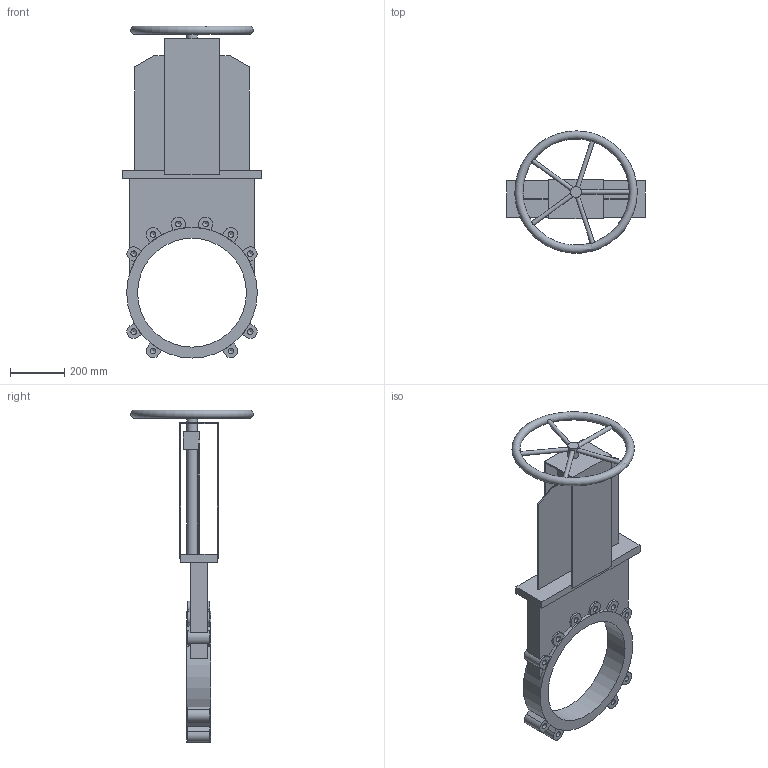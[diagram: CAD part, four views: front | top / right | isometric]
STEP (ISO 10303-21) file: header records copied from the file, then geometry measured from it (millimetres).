
FILE_DESCRIPTION(('STEP AP203'), '1');
FILE_NAME('Çàäâèæêà øèáåðíàÿ ìåæôëàíöåâàÿ K21GV DN400', '', ('UNSPECIFIED'), ('UNSPECIFIED'), 'ASCON STEP Converter 1.6', 'ASCON Math Kernel', '');
FILE_SCHEMA(('CONFIG_CONTROL_DESIGN'));
Length unit declared in the file: millimetre
Bounding box: 510 x 449.34 x 1220 mm (x, y, z)
Volume: 18457416.1 mm3; surface area: 1838164 mm2
Topology: 1 solids, 1 shells, 159 faces, 434 edges, 281 vertices
Faces by surface type: plane 94, cylinder 44, cone 20, torus 1
Full cylindrical faces by diameter (mm): 16 x5, 20.752 x20, 40 x3, 400 x1, 480 x1
Entity records: 6813 total; most frequent: CARTESIAN_POINT 1719, DIRECTION 790, ORIENTED_EDGE 720, EDGE_CURVE 360, AXIS2_PLACEMENT_3D 282, VERTEX_POINT 260, EDGE_LOOP 232, LINE 226
